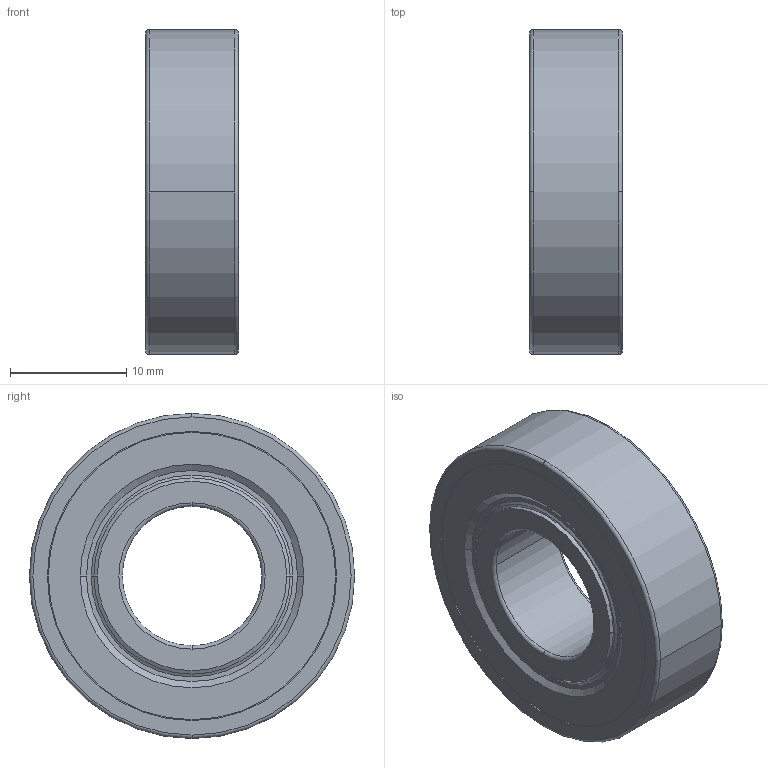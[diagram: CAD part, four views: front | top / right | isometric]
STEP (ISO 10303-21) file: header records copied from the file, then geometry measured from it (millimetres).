
FILE_DESCRIPTION(('STEP AP214'),'1');
FILE_NAME('snr_6001eec3_0.stp','2024-08-01T07:38:37',('TraceParts'),('TraceParts S.A.'),'Spatial InterOp 3D',' ',' ');
FILE_SCHEMA(('AUTOMOTIVE_DESIGN { 1 0 10303 214 1 1 1 1 }'));
Length unit declared in the file: millimetre
Products named in the file (1): snr_6001eec3_0_1
Bounding box: 8 x 28 x 28 mm (x, y, z)
Volume: 3726.1 mm3; surface area: 5196.8 mm2
Topology: 5 solids, 5 shells, 96 faces, 218 edges, 138 vertices
Faces by surface type: torus 28, cone 28, cylinder 24, plane 16
Entity records: 2823 total; most frequent: DIRECTION 586, CARTESIAN_POINT 457, ORIENTED_EDGE 436, AXIS2_PLACEMENT_3D 267, EDGE_CURVE 218, CIRCLE 166, VERTEX_POINT 138, EDGE_LOOP 112
